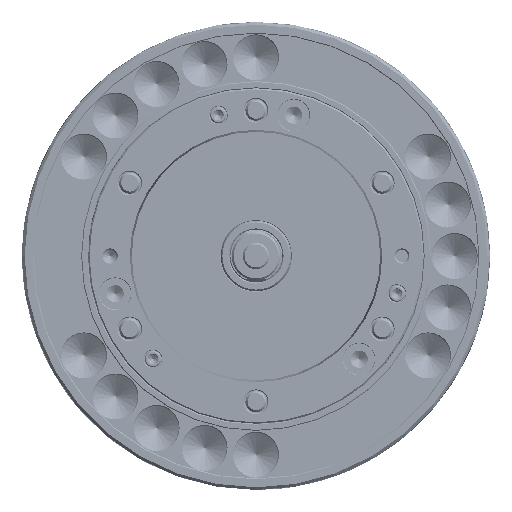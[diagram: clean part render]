
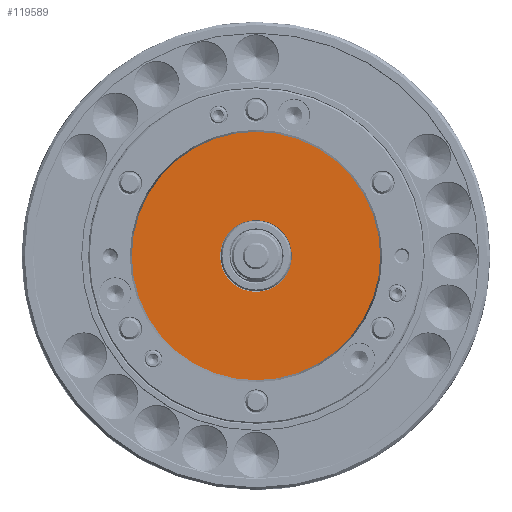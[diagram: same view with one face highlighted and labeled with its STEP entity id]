
A CAD part, left-side view. The second image highlights one B-rep face of the part: STEP entity #119589.
In plain terms, the highlighted planar face has unit normal (-1, 0, 0).
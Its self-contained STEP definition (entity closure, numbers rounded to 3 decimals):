
#1978 = FACE_OUTER_BOUND ( 'NONE', #272391, .T. ) ;
#3387 = PLANE ( 'NONE',  #135701 ) ;
#3676 = CARTESIAN_POINT ( 'NONE',  ( -145., 0., 140.7 ) ) ;
#6353 = CIRCLE ( 'NONE', #37981, 140.7 ) ;
#7663 = CARTESIAN_POINT ( 'NONE',  ( -145., 0., 0. ) ) ;
#22078 = CARTESIAN_POINT ( 'NONE',  ( -145., 0., -140.7 ) ) ;
#37981 = AXIS2_PLACEMENT_3D ( 'NONE', #183658, #182254, #245795 ) ;
#40879 = CARTESIAN_POINT ( 'NONE',  ( -145., 0., 0. ) ) ;
#41007 = AXIS2_PLACEMENT_3D ( 'NONE', #180391, #224129, #202987 ) ;
#45439 = CARTESIAN_POINT ( 'NONE',  ( -145., 0., 40.6 ) ) ;
#45760 = FACE_BOUND ( 'NONE', #49790, .T. ) ;
#47915 = ORIENTED_EDGE ( 'NONE', *, *, #160110, .T. ) ;
#49790 = EDGE_LOOP ( 'NONE', ( #135929, #154937 ) ) ;
#59165 = EDGE_CURVE ( 'NONE', #86137, #188771, #84659, .T. ) ;
#62775 = CARTESIAN_POINT ( 'NONE',  ( -145., 140.7, 0. ) ) ;
#68421 = EDGE_CURVE ( 'NONE', #188771, #86137, #252039, .T. ) ;
#70555 = EDGE_CURVE ( 'NONE', #177467, #212030, #207869, .T. ) ;
#78526 = CARTESIAN_POINT ( 'NONE',  ( -145., 0., -40.6 ) ) ;
#84659 = CIRCLE ( 'NONE', #107818, 40.6 ) ;
#86137 = VERTEX_POINT ( 'NONE', #45439 ) ;
#99344 = DIRECTION ( 'NONE',  ( -1., 0., 0. ) ) ;
#107818 = AXIS2_PLACEMENT_3D ( 'NONE', #7663, #99344, #182656 ) ;
#119589 = ADVANCED_FACE ( 'NONE', ( #45760, #1978 ), #3387, .F. ) ;
#126981 = DIRECTION ( 'NONE',  ( -1., 0., 0. ) ) ;
#131158 = ORIENTED_EDGE ( 'NONE', *, *, #70555, .T. ) ;
#131880 = DIRECTION ( 'NONE',  ( 1., 0., 0. ) ) ;
#134936 = AXIS2_PLACEMENT_3D ( 'NONE', #40879, #126981, #169336 ) ;
#135701 = AXIS2_PLACEMENT_3D ( 'NONE', #62775, #131880, #237757 ) ;
#135929 = ORIENTED_EDGE ( 'NONE', *, *, #59165, .F. ) ;
#154937 = ORIENTED_EDGE ( 'NONE', *, *, #68421, .F. ) ;
#160110 = EDGE_CURVE ( 'NONE', #212030, #177467, #6353, .T. ) ;
#169336 = DIRECTION ( 'NONE',  ( 0., 0., 1. ) ) ;
#177467 = VERTEX_POINT ( 'NONE', #22078 ) ;
#180391 = CARTESIAN_POINT ( 'NONE',  ( -145., 0., 0. ) ) ;
#182254 = DIRECTION ( 'NONE',  ( -1., 0., 0. ) ) ;
#182656 = DIRECTION ( 'NONE',  ( 0., 0., 1. ) ) ;
#183658 = CARTESIAN_POINT ( 'NONE',  ( -145., 0., 0. ) ) ;
#188771 = VERTEX_POINT ( 'NONE', #78526 ) ;
#202987 = DIRECTION ( 'NONE',  ( 0., 0., 1. ) ) ;
#207869 = CIRCLE ( 'NONE', #41007, 140.7 ) ;
#212030 = VERTEX_POINT ( 'NONE', #3676 ) ;
#224129 = DIRECTION ( 'NONE',  ( -1., 0., 0. ) ) ;
#237757 = DIRECTION ( 'NONE',  ( 0., 0., -1. ) ) ;
#245795 = DIRECTION ( 'NONE',  ( 0., 0., 1. ) ) ;
#252039 = CIRCLE ( 'NONE', #134936, 40.6 ) ;
#272391 = EDGE_LOOP ( 'NONE', ( #47915, #131158 ) ) ;
